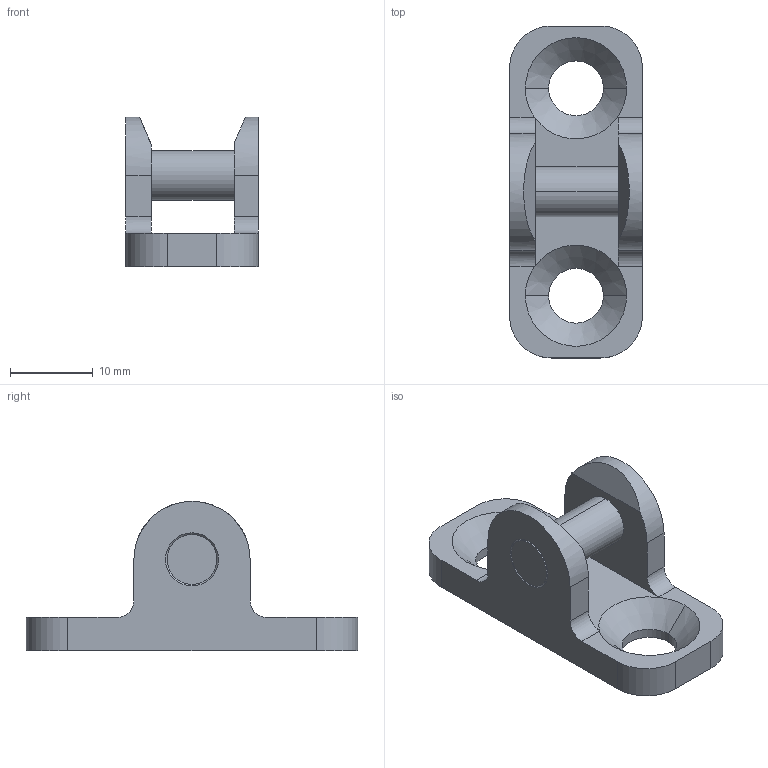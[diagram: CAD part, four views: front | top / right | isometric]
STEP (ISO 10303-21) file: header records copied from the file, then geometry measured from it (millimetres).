
FILE_DESCRIPTION (( 'STEP AP214' ), '1' );
FILE_NAME ('W314-70.STEP', '2010-03-03T18:33:52', ( '£ukaszC' ), ( '' ), 'SwSTEP 2.0', 'SolidWorks 2008', '' );
FILE_SCHEMA (( 'AUTOMOTIVE_DESIGN' ));
Length unit declared in the file: millimetre
Products named in the file (3): MZ 1P 00.00.010_Domyœlna_Domyœlna2_Domyœlna; MZ 1P 00.00.011_Domyœlna_Domyœlna2_Domyœlna; W314-70
Assembly tree (2 placements, depth 2):
  W314-70
    MZ 1P 00.00.011_Domyœlna_Domyœlna2_Domyœlna
    MZ 1P 00.00.010_Domyœlna_Domyœlna2_Domyœlna
Bounding box: 16 x 40 x 18 mm (x, y, z)
Volume: 3304.1 mm3; surface area: 2794 mm2
Topology: 2 solids, 2 shells, 44 faces, 118 edges, 76 vertices
Faces by surface type: cylinder 20, plane 16, cone 8
Entity records: 1496 total; most frequent: DIRECTION 264, CARTESIAN_POINT 255, ORIENTED_EDGE 236, EDGE_CURVE 118, AXIS2_PLACEMENT_3D 101, VERTEX_POINT 76, LINE 62, VECTOR 62
